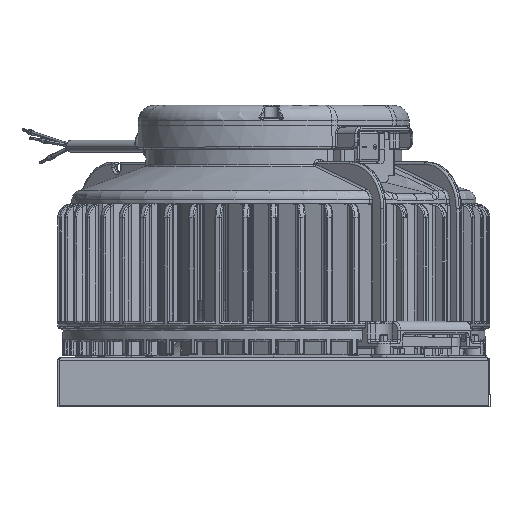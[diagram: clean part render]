
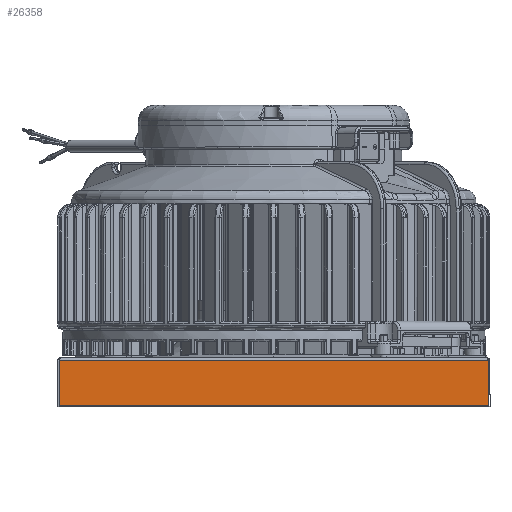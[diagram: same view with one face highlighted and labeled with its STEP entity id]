
A CAD part, top view. The second image highlights one B-rep face of the part: STEP entity #26358.
In plain terms, the highlighted planar face has unit normal (0, 0, 1).
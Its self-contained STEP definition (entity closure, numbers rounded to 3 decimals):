
#6985 = CARTESIAN_POINT ( 'NONE',  ( 159.4, -34.9, 160.5 ) ) ;
#6993 = CARTESIAN_POINT ( 'NONE',  ( -159.4, -34.9, 160.5 ) ) ;
#6995 = CARTESIAN_POINT ( 'NONE',  ( 159.4, -1.3, 160.5 ) ) ;
#7034 = CARTESIAN_POINT ( 'NONE',  ( -159.4, -1.3, 160.5 ) ) ;
#18518 = DIRECTION ( 'NONE',  ( 0., -1., 0. ) ) ;
#18520 = DIRECTION ( 'NONE',  ( 0., 0., -1. ) ) ;
#18688 = PLANE ( 'NONE',  #22442 ) ;
#18702 = CARTESIAN_POINT ( 'NONE',  ( 160.5, 0., 160.5 ) ) ;
#18891 = CARTESIAN_POINT ( 'NONE',  ( -159.4, 0., 160.5 ) ) ;
#18898 = DIRECTION ( 'NONE',  ( 0., -1., 0. ) ) ;
#22442 = AXIS2_PLACEMENT_3D ( 'NONE', #18702, #18520, #18518 ) ;
#22623 = CARTESIAN_POINT ( 'NONE',  ( 159.4, 0., 160.5 ) ) ;
#22624 = DIRECTION ( 'NONE',  ( -1., 0., 0. ) ) ;
#22626 = CARTESIAN_POINT ( 'NONE',  ( 160.5, -34.9, 160.5 ) ) ;
#22638 = CARTESIAN_POINT ( 'NONE',  ( 160.5, -1.3, 160.5 ) ) ;
#22639 = DIRECTION ( 'NONE',  ( 1., 0., 0. ) ) ;
#22641 = DIRECTION ( 'NONE',  ( 0., -1., 0. ) ) ;
#24332 = LINE ( 'NONE', #22638, #24346 ) ;
#24337 = LINE ( 'NONE', #22623, #24349 ) ;
#24340 = LINE ( 'NONE', #22626, #24342 ) ;
#24342 = VECTOR ( 'NONE', #22624, 1000. ) ;
#24346 = VECTOR ( 'NONE', #22639, 1000. ) ;
#24349 = VECTOR ( 'NONE', #22641, 1000. ) ;
#24351 = LINE ( 'NONE', #18891, #24352 ) ;
#24352 = VECTOR ( 'NONE', #18898, 1000. ) ;
#26358 = ADVANCED_FACE ( 'NONE', ( #69453 ), #18688, .F. ) ;
#44409 = ORIENTED_EDGE ( 'NONE', *, *, #82375, .F. ) ;
#44410 = ORIENTED_EDGE ( 'NONE', *, *, #82390, .T. ) ;
#44417 = ORIENTED_EDGE ( 'NONE', *, *, #82372, .F. ) ;
#44418 = ORIENTED_EDGE ( 'NONE', *, *, #82377, .F. ) ;
#69453 = FACE_OUTER_BOUND ( 'NONE', #106525, .T. ) ;
#82372 = EDGE_CURVE ( 'NONE', #100056, #100062, #24340, .T. ) ;
#82375 = EDGE_CURVE ( 'NONE', #100121, #100058, #24332, .T. ) ;
#82377 = EDGE_CURVE ( 'NONE', #100058, #100056, #24337, .T. ) ;
#82390 = EDGE_CURVE ( 'NONE', #100121, #100062, #24351, .T. ) ;
#100056 = VERTEX_POINT ( 'NONE', #6985 ) ;
#100058 = VERTEX_POINT ( 'NONE', #6995 ) ;
#100062 = VERTEX_POINT ( 'NONE', #6993 ) ;
#100121 = VERTEX_POINT ( 'NONE', #7034 ) ;
#106525 = EDGE_LOOP ( 'NONE', ( #44409, #44410, #44417, #44418 ) ) ;
